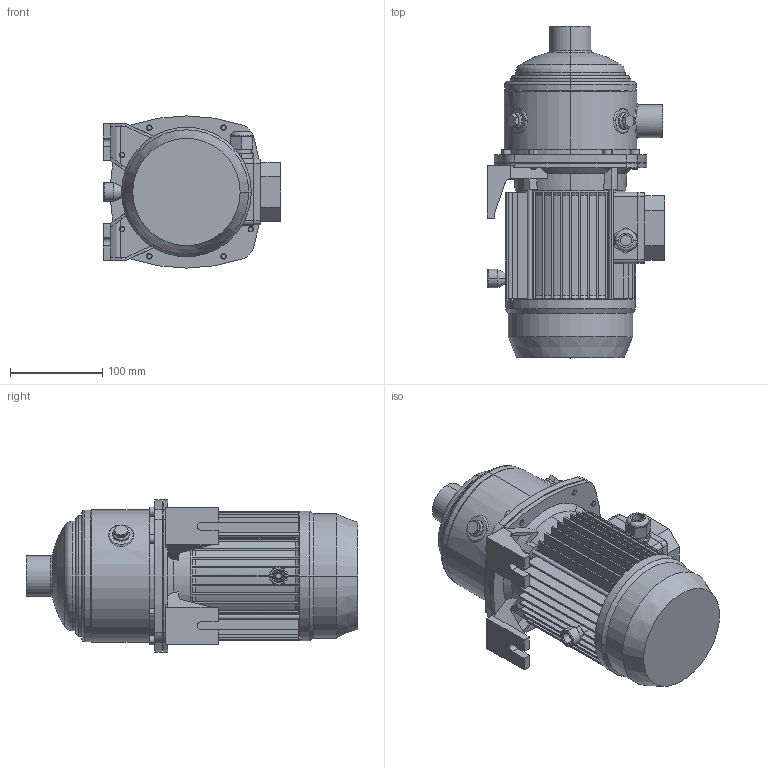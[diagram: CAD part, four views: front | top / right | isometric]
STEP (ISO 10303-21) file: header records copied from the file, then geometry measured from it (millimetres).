
FILE_DESCRIPTION((''),'2;1');
FILE_NAME('MATRIX_5_2T_0_45_ASM','2009-06-09T',('Utente'),('"Ebara Pumps Europe +39.444.706811"'),'PRO/ENGINEER BY PARAMETRIC TECHNOLOGY CORPORATION, 2008400','PRO/ENGINEER BY PARAMETRIC TECHNOLOGY CORPORATION, 2008400','');
FILE_SCHEMA(('AUTOMOTIVE_DESIGN { 1 0 10303 214 1 1 1 1 }'));
Length unit declared in the file: millimetre
Products named in the file (5): CORPO_POMPA_MATRIX_5-2_3; SUPPORTO_MATRIX_MEC_71; MEC_71; 72228; MATRIX_5_2T_0_45_ASM
Assembly tree (4 placements, depth 2):
  MATRIX_5_2T_0_45_ASM
    CORPO_POMPA_MATRIX_5-2_3
    SUPPORTO_MATRIX_MEC_71
    MEC_71
    72228
Bounding box: 192 x 359.8 x 165 mm (x, y, z)
Volume: 3601793.3 mm3; surface area: 461560.4 mm2
Topology: 4 solids, 4 shells, 679 faces, 1638 edges, 1014 vertices
Faces by surface type: plane 355, cylinder 184, cone 108, torus 28, sphere 2, bspline 2
Entity records: 20606 total; most frequent: CARTESIAN_POINT 4418, DIRECTION 3472, ORIENTED_EDGE 3276, EDGE_CURVE 1638, AXIS2_PLACEMENT_3D 1326, VERTEX_POINT 1014, VECTOR 820, LINE 820
